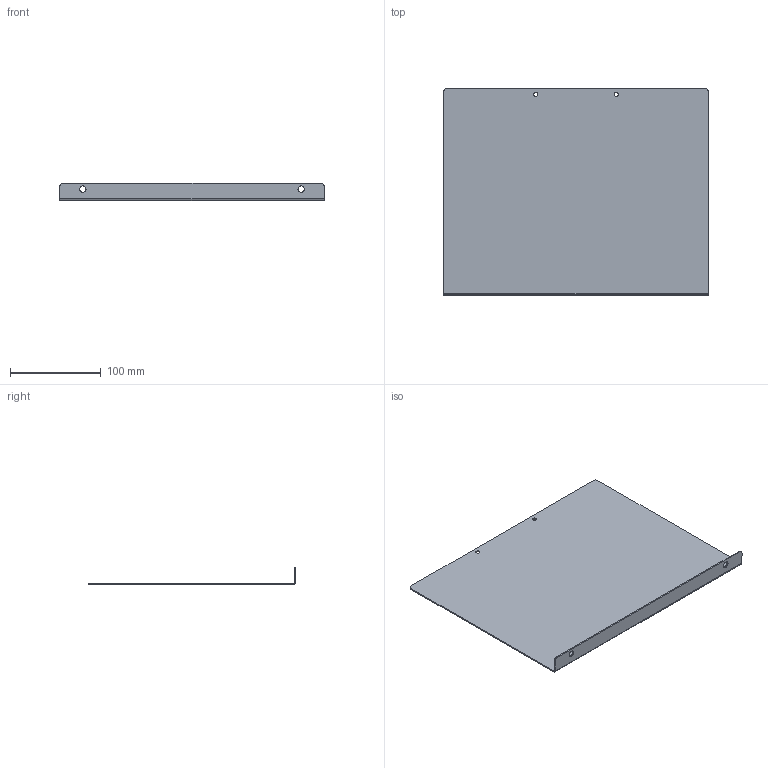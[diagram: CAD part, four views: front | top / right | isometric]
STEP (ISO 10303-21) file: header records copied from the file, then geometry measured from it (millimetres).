
FILE_DESCRIPTION((''),'2;1');
FILE_NAME('C:\Vault_Workspace\Inventor_Dwg\Inv-1\1100BA\WEBSITE\1100BA10012.stp','2015-02-02T15:15:34',('MichaelA'),(''),'Autodesk Inventor 2012','Autodesk Inventor 2012','');
FILE_SCHEMA(('AUTOMOTIVE_DESIGN { 1 0 10303 214 1 1 1 1 }'));
Length unit declared in the file: inch
Products named in the file (1): 1100BA-MASTER
Bounding box: 292.1 x 228.6 x 19.05 mm (x, y, z)
Volume: 100058.4 mm3; surface area: 144844.5 mm2
Topology: 1 solids, 1 shells, 22 faces, 52 edges, 32 vertices
Faces by surface type: plane 12, cylinder 10
Full cylindrical faces by diameter (mm): 4.496 x2, 7.137 x2
Entity records: 656 total; most frequent: DIRECTION 114, CARTESIAN_POINT 103, ORIENTED_EDGE 96, EDGE_CURVE 48, AXIS2_PLACEMENT_3D 43, EDGE_LOOP 34, VERTEX_POINT 32, VECTOR 28
